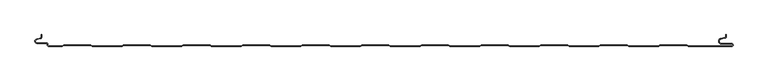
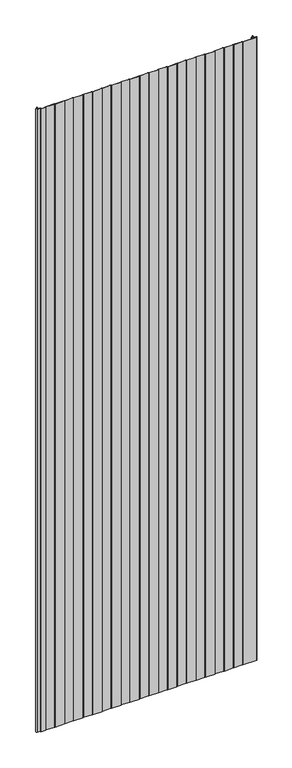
"""IFC4 building model written with IfcOpenShell, lengths in millimetres: plate geometry, Curtain-Panel_Doble-Panel-Acústico_Perfil-estándar-PM1 : ACH_Doble-Panel-Acústico_PM1_100-200-100."""

import ifcopenshell
import ifcopenshell.guid

model = None  # the IFC model being written
_history = None  # IfcOwnerHistory: only IFC2X3 demands one
_inside = {}  # id of a spatial element -> (the spatial element, [elements in it])
_under = {}  # id of a project, library or spatial element -> (it, [spatial elements below it])
_declared = {}  # id of a project -> (the project, [libraries it declares])
_typed = {}  # id of a type object -> (the type object, [elements of that type])
_made_of = {}  # id of a material, layer set ... -> (it, [elements and type objects made of it])


def new_model(schema):
    """Start an empty IFC model of exactly this schema.

    Asked for "IFC4X3", IfcOpenShell would pick the latest addendum, in which some entities
    have other attributes; the version numbers below select the first issue.
    IFC2X3 requires an IfcOwnerHistory on every rooted entity: one is made here for all.
    """
    global model, _history
    if schema == "IFC4X3":
        model = ifcopenshell.file(schema_version=(4, 3, 0, 0))
    else:
        model = ifcopenshell.file(schema=schema)
    _inside.clear()
    _under.clear()
    _declared.clear()
    _typed.clear()
    _made_of.clear()
    _history = None
    if model.schema == "IFC2X3":
        org = make("IfcOrganization", Name="unknown")
        user = make(
            "IfcPersonAndOrganization",
            ThePerson=make("IfcPerson", FamilyName="unknown"),
            TheOrganization=org,
        )
        app = make(
            "IfcApplication",
            ApplicationDeveloper=org,
            Version="unknown",
            ApplicationFullName="unknown",
            ApplicationIdentifier="unknown",
        )
        _history = make(
            "IfcOwnerHistory",
            OwningUser=user,
            OwningApplication=app,
            ChangeAction="ADDED",
            CreationDate=0,
        )
    return model


def make(cls, **values):
    """One entity of the class cls with the attributes given. An attribute that is None is left unset."""
    return model.create_entity(
        cls, **{name: value for name, value in values.items() if value is not None}
    )


def rooted(cls, **values):
    """An entity with a GlobalId (a new one), such as an element, a storey or a relation."""
    return make(cls, GlobalId=ifcopenshell.guid.new(), OwnerHistory=_history, **values)


def si_unit(unit_type, name, prefix=None):
    """IfcSIUnit, for example si_unit("LENGTHUNIT", "METRE", prefix="MILLI")."""
    return make("IfcSIUnit", UnitType=unit_type, Prefix=prefix, Name=name)


def assignment(units):
    """IfcUnitAssignment: the units of a project."""
    return None if units is None else make("IfcUnitAssignment", Units=units)


def point(xyz):
    """IfcCartesianPoint."""
    return None if xyz is None else make("IfcCartesianPoint", Coordinates=xyz)


def direction(xyz):
    """IfcDirection."""
    return None if xyz is None else make("IfcDirection", DirectionRatios=xyz)


def frame(location, z_axis=None, x_axis=None):
    """IfcAxis2Placement3D, a coordinate frame: its origin and axes. An axis left out is left unset."""
    return make(
        "IfcAxis2Placement3D",
        Location=point(location),
        Axis=direction(z_axis),
        RefDirection=direction(x_axis),
    )


def origin():
    """The frame at (0, 0, 0) with its axes left unset."""
    return frame((0.0, 0.0, 0.0))


def place(relative_to, where):
    """IfcLocalPlacement: puts the frame where relative to a parent placement (None: the world)."""
    return make(
        "IfcLocalPlacement", PlacementRelTo=relative_to, RelativePlacement=where
    )


def context(
    kind, dimensions, precision=None, world=None, true_north=None, identifier=None
):
    """IfcGeometricRepresentationContext, for example the 3D "Model" context."""
    return make(
        "IfcGeometricRepresentationContext",
        ContextIdentifier=identifier,
        ContextType=kind,
        CoordinateSpaceDimension=dimensions,
        Precision=precision,
        WorldCoordinateSystem=world,
        TrueNorth=true_north,
    )


def project(units=None, contexts=None):
    """IfcProject with its units and contexts."""
    return rooted(
        "IfcProject",
        Name="project",
        RepresentationContexts=contexts,
        UnitsInContext=assignment(units),
    )


def spatial(cls, under=None, at=None, **own):
    """A site, building, storey or space (cls), placed at a placement, below another one or the project."""
    s = rooted(cls, ObjectPlacement=at, **own)
    if under is not None:
        _under.setdefault(under.id(), (under, []))[1].append(s)
    return s


def polyline(points):
    """IfcPolyline through the points."""
    return make("IfcPolyline", Points=[point(p) for p in points])


def circle_curve(where, radius):
    """IfcCircle in the frame where."""
    return make("IfcCircle", Position=where, Radius=radius)


def shape(context_of_items, identifier, shape_type, items):
    """IfcShapeRepresentation: the items that make up one representation, for example the "Body"."""
    return make(
        "IfcShapeRepresentation",
        ContextOfItems=context_of_items,
        RepresentationIdentifier=identifier,
        RepresentationType=shape_type,
        Items=items,
    )


def source(mapping_origin, context_of_items, identifier, shape_type, items):
    """IfcRepresentationMap: a shape defined once, which mapped items show again and again."""
    return make(
        "IfcRepresentationMap",
        MappingOrigin=mapping_origin,
        MappedRepresentation=shape(context_of_items, identifier, shape_type, items),
    )


def transform(
    local_origin,
    x_axis=None,
    y_axis=None,
    z_axis=None,
    scale=None,
    scale2=None,
    scale3=None,
    uniform=True,
):
    """IfcCartesianTransformationOperator3D, or its non-uniform kind. x_axis, y_axis, z_axis: its Axis1, 2, 3."""
    if uniform:
        return make(
            "IfcCartesianTransformationOperator3D",
            Axis1=direction(x_axis),
            Axis2=direction(y_axis),
            LocalOrigin=point(local_origin),
            Scale=scale,
            Axis3=direction(z_axis),
        )
    return make(
        "IfcCartesianTransformationOperator3DnonUniform",
        Axis1=direction(x_axis),
        Axis2=direction(y_axis),
        LocalOrigin=point(local_origin),
        Scale=scale,
        Axis3=direction(z_axis),
        Scale2=scale2,
        Scale3=scale3,
    )


def mapped(mapping_source, mapping_target):
    """IfcMappedItem: shows the shape of a source again, moved by a transform."""
    return make(
        "IfcMappedItem", MappingSource=mapping_source, MappingTarget=mapping_target
    )


def made_of(thing, what):
    """Note that an element or type object is made of a material, layer set ...; save() writes the relation."""
    if what is not None:
        _made_of.setdefault(what.id(), (what, []))[1].append(thing)
    return thing


def element(
    cls,
    number,
    at=None,
    inside=None,
    cuts=None,
    type_object=None,
    material=None,
    context=None,
    identifier="Body",
    shape_type=None,
    held_by="IfcProductDefinitionShape",
    body=None,
    shapes=None,
    **own,
):
    """One element of the class cls, such as IfcWall. Its Tag is "e" and its number.

    at: its placement. inside: the storey or other place that contains it. cuts: it is an
    opening in that element (IfcRelVoidsElement). A single representation is given by context,
    identifier, shape_type and body (its items); several are given by shapes. held_by: the class
    of the entity that holds the representations. save() writes the other relations.
    """
    e = rooted(cls, Tag="e%d" % number, ObjectPlacement=at, **own)
    if body is not None:
        shapes = [shape(context, identifier, shape_type, body)]
    if shapes is not None:
        e.Representation = make(held_by, Representations=shapes)
    if inside is not None:
        _inside.setdefault(inside.id(), (inside, []))[1].append(e)
    if cuts is not None:
        rooted(
            "IfcRelVoidsElement", RelatingBuildingElement=cuts, RelatedOpeningElement=e
        )
    if type_object is not None:
        _typed.setdefault(type_object.id(), (type_object, []))[1].append(e)
    return made_of(e, material)


def aggregate(whole, parts):
    """IfcRelAggregates: a whole, such as a stair, and the parts it consists of."""
    return rooted("IfcRelAggregates", RelatingObject=whole, RelatedObjects=parts)


def save(model, path):
    """Write the relations noted so far, then the file.

    IfcRelAggregates (storeys below a building ...), IfcRelContainedInSpatialStructure (elements
    in a storey), IfcRelDefinesByType, IfcRelAssociatesMaterial and IfcRelDeclares: one each for
    every whole, place, type object, material and project.
    """
    for whole, parts in _under.values():
        aggregate(whole, parts)
    for where, things in _inside.values():
        rooted(
            "IfcRelContainedInSpatialStructure",
            RelatedElements=things,
            RelatingStructure=where,
        )
    for kind, things in _typed.values():
        rooted("IfcRelDefinesByType", RelatedObjects=things, RelatingType=kind)
    for what, things in _made_of.values():
        rooted("IfcRelAssociatesMaterial", RelatedObjects=things, RelatingMaterial=what)
    for by, libraries in _declared.values():
        rooted("IfcRelDeclares", RelatingContext=by, RelatedDefinitions=libraries)
    model.write(path)


def plane_surface(at):
    """IfcPlane: the flat surface through the origin of the frame at, square to its z axis."""
    return make("IfcPlane", Position=at)


def cylinder_surface(at, radius):
    """IfcCylindricalSurface: all points at the distance radius from the z axis of the frame at."""
    return make("IfcCylindricalSurface", Position=at, Radius=radius)


def revolved_surface(curve, axis_point, axis_direction):
    """IfcSurfaceOfRevolution: the curve turned about the line through axis_point along axis_direction."""
    return make(
        "IfcSurfaceOfRevolution",
        SweptCurve=make("IfcArbitraryOpenProfileDef", ProfileType="CURVE", Curve=curve),
        AxisPosition=make("IfcAxis1Placement", Location=point(axis_point), Axis=direction(axis_direction)),
    )


def advanced_brep(points, edges, surfaces, faces):
    """IfcAdvancedBrep: a solid bounded by faces that lie on surfaces and meet in shared edges.

    An edge is (start, end): straight between two places in points (the first is 0);
    or (start, end, curve); or (start, end, curve, False) where it runs against its curve.
    A face is (place in surfaces, loops), or (place, loops, False) where it looks against
    its surface's normal. A loop lists edges by number (the first is 1), with a minus sign
    where the edge is run from its end to its start. The first loop is the outer one.
    """
    corners = [point(p) for p in points]
    vertices = [make("IfcVertexPoint", VertexGeometry=c) for c in corners]
    made = []
    for start, end, *more in edges:
        made.append(
            make(
                "IfcEdgeCurve",
                EdgeStart=vertices[start],
                EdgeEnd=vertices[end],
                EdgeGeometry=more[0] if more else make("IfcPolyline", Points=[corners[start], corners[end]]),
                SameSense=more[1] if len(more) > 1 else True,
            )
        )
    hull = []
    for where, loops, *sense in faces:
        bounds = []
        for j, loop in enumerate(loops):
            ring = [make("IfcOrientedEdge", EdgeElement=made[abs(k) - 1], Orientation=k > 0) for k in loop]
            bounds.append(
                make(
                    "IfcFaceOuterBound" if j == 0 else "IfcFaceBound",
                    Bound=make("IfcEdgeLoop", EdgeList=ring),
                    Orientation=True,
                )
            )
        hull.append(make("IfcAdvancedFace", Bounds=bounds, FaceSurface=surfaces[where], SameSense=sense[0] if sense else True))
    return make("IfcAdvancedBrep", Outer=make("IfcClosedShell", CfsFaces=hull))


def plate_c86cb39e(model_context):
    return source(origin(), model_context, "Body", "AdvancedBrep", [
        advanced_brep(
        [(-562.4, -400.0, 3500.0), (-539.3999999, -400.0, 3500.0), (-536.8019223, -398.5, 3500.0), (-492.0019247, -398.5, 3500.0), (-489.4038471, -400.0, 3500.0), (-439.3999999, -400.0, 3500.0), (-436.8019223, -398.5, 3500.0), (-392.0019247, -398.5, 3500.0), (-389.4038471, -400.0, 3500.0), (-339.3999999, -400.0, 3500.0), (-336.8019223, -398.5, 3500.0), (-292.0019247, -398.5, 3500.0), (-289.4038471, -400.0, 3500.0), (-239.3999999, -400.0, 3500.0), (-236.8019223, -398.5, 3500.0), (-192.0019247, -398.5, 3500.0), (-189.4038471, -400.0, 3500.0), (-139.3999999, -400.0, 3500.0), (-136.8019223, -398.5, 3500.0), (-92.0019247, -398.5, 3500.0), (-89.4038471, -400.0, 3500.0), (-39.3999999, -400.0, 3500.0), (-36.8019223, -398.5, 3500.0), (7.9980753, -398.5, 3500.0), (10.5961529, -400.0, 3500.0), (60.6000001, -400.0, 3500.0), (63.1980777, -398.5, 3500.0), (107.9980753, -398.5, 3500.0), (110.5961529, -400.0, 3500.0), (160.6000001, -400.0, 3500.0), (163.1980777, -398.5, 3500.0), (207.9980753, -398.5, 3500.0), (210.5961529, -400.0, 3500.0), (260.6000001, -400.0, 3500.0), (263.1980777, -398.5, 3500.0), (307.9980753, -398.5, 3500.0), (310.5961529, -400.0, 3500.0), (360.6000001, -400.0, 3500.0), (363.1980777, -398.5, 3500.0), (407.9980753, -398.5, 3500.0), (410.5961529, -400.0, 3500.0), (460.6000001, -400.0, 3500.0), (463.1980777, -398.5, 3500.0), (507.9980753, -398.5, 3500.0), (510.5961529, -400.0, 3500.0), (583.1, -400.0, 3500.0), (585.6, -397.5, 3500.0), (583.1, -395.0, 3500.0), (566.1, -395.0, 3500.0), (565.4054075, -387.060769, 3500.0), (571.8514851, -385.924152, 3500.0), (574.0, -383.363652, 3500.0), (574.0, -380.0, 3500.0), (573.2, -380.0, 3500.0), (573.2, -383.363652, 3500.0), (571.7125666, -385.136306, 3500.0), (565.266489, -386.2729229, 3500.0), (566.1, -395.8, 3500.0), (583.1, -395.8, 3500.0), (583.1, -399.2, 3500.0), (510.8105122, -399.2, 3500.0), (508.2124346, -397.7, 3500.0), (462.9837184, -397.7, 3500.0), (460.3856408, -399.2, 3500.0), (410.8105122, -399.2, 3500.0), (408.2124346, -397.7, 3500.0), (362.9837184, -397.7, 3500.0), (360.3856408, -399.2, 3500.0), (310.8105122, -399.2, 3500.0), (308.2124346, -397.7, 3500.0), (262.9837184, -397.7, 3500.0), (260.3856408, -399.2, 3500.0), (210.8105122, -399.2, 3500.0), (208.2124346, -397.7, 3500.0), (162.9837184, -397.7, 3500.0), (160.3856408, -399.2, 3500.0), (110.8105122, -399.2, 3500.0), (108.2124346, -397.7, 3500.0), (62.9837184, -397.7, 3500.0), (60.3856408, -399.2, 3500.0), (10.8105122, -399.2, 3500.0), (8.2124346, -397.7, 3500.0), (-37.0162816, -397.7, 3500.0), (-39.6143592, -399.2, 3500.0), (-89.1894878, -399.2, 3500.0), (-91.7875654, -397.7, 3500.0), (-137.0162816, -397.7, 3500.0), (-139.6143592, -399.2, 3500.0), (-189.1894878, -399.2, 3500.0), (-191.7875654, -397.7, 3500.0), (-237.0162816, -397.7, 3500.0), (-239.6143592, -399.2, 3500.0), (-289.1894878, -399.2, 3500.0), (-291.7875654, -397.7, 3500.0), (-337.0162816, -397.7, 3500.0), (-339.6143592, -399.2, 3500.0), (-389.1894878, -399.2, 3500.0), (-391.7875654, -397.7, 3500.0), (-437.0162816, -397.7, 3500.0), (-439.6143592, -399.2, 3500.0), (-489.1894878, -399.2, 3500.0), (-491.7875654, -397.7, 3500.0), (-537.0162816, -397.7, 3500.0), (-539.6143592, -399.2, 3500.0), (-562.4, -399.2, 3500.0), (-563.6, -398.0, 3500.0), (-563.6, -396.6, 3500.0), (-566.4, -393.8, 3500.0), (-581.9, -393.8, 3500.0), (-582.529863, -388.2717638, 3500.0), (-576.370137, -386.849679, 3500.0), (-574.2, -384.121443, 3500.0), (-574.2, -380.0, 3500.0), (-575.0, -380.0, 3500.0), (-575.0, -384.121443, 3500.0), (-576.5500978, -386.0701831, 3500.0), (-582.7098239, -387.492268, 3500.0), (-581.9, -394.6, 3500.0), (-566.4, -394.6, 3500.0), (-564.4, -396.6, 3500.0), (-564.4, -398.0, 3500.0), (-562.4, -400.0, 0.0), (-564.4, -398.0, 0.0), (-564.4, -396.6, 0.0), (-566.4, -394.6, 0.0), (-581.9, -394.6, 0.0), (-582.7098239, -387.4922678, 0.0), (-576.5500979, -386.070183, 0.0), (-575.0, -384.121443, 0.0), (-575.0, -380.0, 0.0), (-574.2, -380.0, 0.0), (-574.2, -384.121443, 0.0), (-576.370137, -386.8496792, 0.0), (-582.529863, -388.271764, 0.0), (-581.9, -393.8, 0.0), (-566.4, -393.8, 0.0), (-563.6, -396.6, 0.0), (-563.6, -398.0, 0.0), (-562.4, -399.2, 0.0), (-539.6143592, -399.2, 0.0), (-537.0162816, -397.7, 0.0), (-491.7875654, -397.7, 0.0), (-489.1894878, -399.2, 0.0), (-439.6143592, -399.2, 0.0), (-437.0162816, -397.7, 0.0), (-391.7875654, -397.7, 0.0), (-389.1894878, -399.2, 0.0), (-339.6143592, -399.2, 0.0), (-337.0162816, -397.7, 0.0), (-291.7875654, -397.7, 0.0), (-289.1894878, -399.2, 0.0), (-239.6143592, -399.2, 0.0), (-237.0162816, -397.7, 0.0), (-191.7875654, -397.7, 0.0), (-189.1894878, -399.2, 0.0), (-139.6143592, -399.2, 0.0), (-137.0162816, -397.7, 0.0), (-91.7875654, -397.7, 0.0), (-89.1894878, -399.2, 0.0), (-39.6143592, -399.2, 0.0), (-37.0162816, -397.7, 0.0), (8.2124346, -397.7, 0.0), (10.8105122, -399.2, 0.0), (60.3856408, -399.2, 0.0), (62.9837184, -397.7, 0.0), (108.2124346, -397.7, 0.0), (110.8105122, -399.2, 0.0), (160.3856408, -399.2, 0.0), (162.9837184, -397.7, 0.0), (208.2124346, -397.7, 0.0), (210.8105122, -399.2, 0.0), (260.3856408, -399.2, 0.0), (262.9837184, -397.7, 0.0), (308.2124346, -397.7, 0.0), (310.8105122, -399.2, 0.0), (360.3856408, -399.2, 0.0), (362.9837184, -397.7, 0.0), (408.2124346, -397.7, 0.0), (410.8105122, -399.2, 0.0), (460.3856408, -399.2, 0.0), (462.9837184, -397.7, 0.0), (508.2124346, -397.7, 0.0), (510.8105122, -399.2, 0.0), (583.1, -399.2, 0.0), (583.1, -395.8, 0.0), (566.1, -395.8, 0.0), (565.266489, -386.2729227, 0.0), (571.7125666, -385.1363058, 0.0), (573.2, -383.363652, 0.0), (573.2, -380.0, 0.0), (574.0, -380.0, 0.0), (574.0, -383.363652, 0.0), (571.8514851, -385.9241522, 0.0), (565.4054075, -387.0607691, 0.0), (566.1, -395.0, 0.0), (583.1, -395.0, 0.0), (585.6, -397.5, 0.0), (583.1, -400.0, 0.0), (510.5961529, -400.0, 0.0), (507.9980753, -398.5, 0.0), (463.1980777, -398.5, 0.0), (460.6000001, -400.0, 0.0), (410.5961529, -400.0, 0.0), (407.9980753, -398.5, 0.0), (363.1980777, -398.5, 0.0), (360.6000001, -400.0, 0.0), (310.5961529, -400.0, 0.0), (307.9980753, -398.5, 0.0), (263.1980777, -398.5, 0.0), (260.6000001, -400.0, 0.0), (210.5961529, -400.0, 0.0), (207.9980753, -398.5, 0.0), (163.1980777, -398.5, 0.0), (160.6000001, -400.0, 0.0), (110.5961529, -400.0, 0.0), (107.9980753, -398.5, 0.0), (63.1980777, -398.5, 0.0), (60.6000001, -400.0, 0.0), (10.5961529, -400.0, 0.0), (7.9980753, -398.5, 0.0), (-36.8019223, -398.5, 0.0), (-39.3999999, -400.0, 0.0), (-89.4038471, -400.0, 0.0), (-92.0019247, -398.5, 0.0), (-136.8019223, -398.5, 0.0), (-139.3999999, -400.0, 0.0), (-189.4038471, -400.0, 0.0), (-192.0019247, -398.5, 0.0), (-236.8019223, -398.5, 0.0), (-239.3999999, -400.0, 0.0), (-289.4038471, -400.0, 0.0), (-292.0019247, -398.5, 0.0), (-336.8019223, -398.5, 0.0), (-339.3999999, -400.0, 0.0), (-389.4038471, -400.0, 0.0), (-392.0019247, -398.5, 0.0), (-436.8019223, -398.5, 0.0), (-439.3999999, -400.0, 0.0), (-489.4038471, -400.0, 0.0), (-492.0019247, -398.5, 0.0), (-536.8019223, -398.5, 0.0), (-539.3999999, -400.0, 0.0)],
        [
            (0, 1),
            (1, 2),
            (2, 3),
            (3, 4),
            (4, 5),
            (5, 6),
            (6, 7),
            (7, 8),
            (8, 9),
            (9, 10),
            (10, 11),
            (11, 12),
            (12, 13),
            (13, 14),
            (14, 15),
            (15, 16),
            (16, 17),
            (17, 18),
            (18, 19),
            (19, 20),
            (20, 21),
            (21, 22),
            (22, 23),
            (23, 24),
            (24, 25),
            (25, 26),
            (26, 27),
            (27, 28),
            (28, 29),
            (29, 30),
            (30, 31),
            (31, 32),
            (32, 33),
            (33, 34),
            (34, 35),
            (35, 36),
            (36, 37),
            (37, 38),
            (38, 39),
            (39, 40),
            (40, 41),
            (41, 42),
            (42, 43),
            (43, 44),
            (44, 45),
            (45, 46, circle_curve(frame((583.1, -397.5, 3500.0), z_axis=(0.0, 0.0, 1.0), x_axis=(1.0, 0.0, 0.0)), 2.5)),
            (46, 47, circle_curve(frame((583.1, -397.5, 3500.0), z_axis=(0.0, 0.0, 1.0), x_axis=(1.0, 0.0, 0.0)), 2.5)),
            (47, 48),
            (48, 49, circle_curve(frame((566.1, -391.0, 3500.0), z_axis=(0.0, 0.0, -1.0), x_axis=(1.0, 0.0, 0.0)), 4.0)),
            (49, 50),
            (50, 51, circle_curve(frame((571.4, -383.363652, 3500.0), z_axis=(0.0, 0.0, 1.0), x_axis=(1.0, 0.0, 0.0)), 2.6)),
            (51, 52),
            (52, 53),
            (53, 54),
            (54, 55, circle_curve(frame((571.4, -383.363652, 3500.0), z_axis=(0.0, 0.0, -1.0), x_axis=(1.0, 0.0, 0.0)), 1.8)),
            (55, 56),
            (56, 57, circle_curve(frame((566.1, -391.0, 3500.0), z_axis=(0.0, 0.0, 1.0), x_axis=(1.0, 0.0, 0.0)), 4.8)),
            (57, 58),
            (58, 59, circle_curve(frame((583.1, -397.5, 3500.0), z_axis=(0.0, 0.0, -1.0), x_axis=(1.0, 0.0, 0.0)), 1.7)),
            (59, 60),
            (60, 61),
            (61, 62),
            (62, 63),
            (63, 64),
            (64, 65),
            (65, 66),
            (66, 67),
            (67, 68),
            (68, 69),
            (69, 70),
            (70, 71),
            (71, 72),
            (72, 73),
            (73, 74),
            (74, 75),
            (75, 76),
            (76, 77),
            (77, 78),
            (78, 79),
            (79, 80),
            (80, 81),
            (81, 82),
            (82, 83),
            (83, 84),
            (84, 85),
            (85, 86),
            (86, 87),
            (87, 88),
            (88, 89),
            (89, 90),
            (90, 91),
            (91, 92),
            (92, 93),
            (93, 94),
            (94, 95),
            (95, 96),
            (96, 97),
            (97, 98),
            (98, 99),
            (99, 100),
            (100, 101),
            (101, 102),
            (102, 103),
            (103, 104),
            (104, 105, circle_curve(frame((-562.4, -398.0, 3500.0), z_axis=(0.0, 0.0, -1.0), x_axis=(1.0, 0.0, 0.0)), 1.2)),
            (105, 106),
            (106, 107, circle_curve(frame((-566.4, -396.6, 3500.0), z_axis=(0.0, 0.0, 1.0), x_axis=(1.0, 0.0, 0.0)), 2.8)),
            (107, 108),
            (108, 109, circle_curve(frame((-581.9, -391.0, 3500.0), z_axis=(0.0, 0.0, -1.0), x_axis=(1.0, 0.0, 0.0)), 2.8)),
            (109, 110),
            (110, 111, circle_curve(frame((-577.0, -384.121443, 3500.0), z_axis=(0.0, 0.0, 1.0), x_axis=(1.0, 0.0, 0.0)), 2.8)),
            (111, 112),
            (112, 113),
            (113, 114),
            (114, 115, circle_curve(frame((-577.0, -384.121443, 3500.0), z_axis=(0.0, 0.0, -1.0), x_axis=(1.0, 0.0, 0.0)), 2.0)),
            (115, 116),
            (116, 117, circle_curve(frame((-581.9, -391.0, 3500.0), z_axis=(0.0, 0.0, 1.0), x_axis=(1.0, 0.0, 0.0)), 3.6)),
            (117, 118),
            (118, 119, circle_curve(frame((-566.4, -396.6, 3500.0), z_axis=(0.0, 0.0, -1.0), x_axis=(1.0, 0.0, 0.0)), 2.0)),
            (119, 120),
            (120, 0, circle_curve(frame((-562.4, -398.0, 3500.0), z_axis=(0.0, 0.0, 1.0), x_axis=(1.0, 0.0, 0.0)), 2.0)),
            (121, 122, circle_curve(frame((-562.4, -398.0, 0.0), z_axis=(0.0, 0.0, -1.0), x_axis=(1.0, 0.0, 0.0)), 2.0)),
            (122, 123),
            (123, 124, circle_curve(frame((-566.4, -396.6, 0.0), z_axis=(0.0, 0.0, 1.0), x_axis=(1.0, 0.0, 0.0)), 2.0)),
            (124, 125),
            (125, 126, circle_curve(frame((-581.9, -391.0, 0.0), z_axis=(0.0, 0.0, -1.0), x_axis=(1.0, 0.0, 0.0)), 3.6)),
            (126, 127),
            (127, 128, circle_curve(frame((-577.0, -384.121443, 0.0), z_axis=(0.0, 0.0, 1.0), x_axis=(1.0, 0.0, 0.0)), 2.0)),
            (128, 129),
            (129, 130),
            (130, 131),
            (131, 132, circle_curve(frame((-577.0, -384.121443, 0.0), z_axis=(0.0, 0.0, -1.0), x_axis=(1.0, 0.0, 0.0)), 2.8)),
            (132, 133),
            (133, 134, circle_curve(frame((-581.9, -391.0, 0.0), z_axis=(0.0, 0.0, 1.0), x_axis=(1.0, 0.0, 0.0)), 2.8)),
            (134, 135),
            (135, 136, circle_curve(frame((-566.4, -396.6, 0.0), z_axis=(0.0, 0.0, -1.0), x_axis=(1.0, 0.0, 0.0)), 2.8)),
            (136, 137),
            (137, 138, circle_curve(frame((-562.4, -398.0, 0.0), z_axis=(0.0, 0.0, 1.0), x_axis=(1.0, 0.0, 0.0)), 1.2)),
            (138, 139),
            (139, 140),
            (140, 141),
            (141, 142),
            (142, 143),
            (143, 144),
            (144, 145),
            (145, 146),
            (146, 147),
            (147, 148),
            (148, 149),
            (149, 150),
            (150, 151),
            (151, 152),
            (152, 153),
            (153, 154),
            (154, 155),
            (155, 156),
            (156, 157),
            (157, 158),
            (158, 159),
            (159, 160),
            (160, 161),
            (161, 162),
            (162, 163),
            (163, 164),
            (164, 165),
            (165, 166),
            (166, 167),
            (167, 168),
            (168, 169),
            (169, 170),
            (170, 171),
            (171, 172),
            (172, 173),
            (173, 174),
            (174, 175),
            (175, 176),
            (176, 177),
            (177, 178),
            (178, 179),
            (179, 180),
            (180, 181),
            (181, 182),
            (182, 183),
            (183, 184, circle_curve(frame((583.1, -397.5, 0.0), z_axis=(0.0, 0.0, 1.0), x_axis=(1.0, 0.0, 0.0)), 1.7)),
            (184, 185),
            (185, 186, circle_curve(frame((566.1, -391.0, 0.0), z_axis=(0.0, 0.0, -1.0), x_axis=(1.0, 0.0, 0.0)), 4.8)),
            (186, 187),
            (187, 188, circle_curve(frame((571.4, -383.363652, 0.0), z_axis=(0.0, 0.0, 1.0), x_axis=(1.0, 0.0, 0.0)), 1.8)),
            (188, 189),
            (189, 190),
            (190, 191),
            (191, 192, circle_curve(frame((571.4, -383.363652, 0.0), z_axis=(0.0, 0.0, -1.0), x_axis=(1.0, 0.0, 0.0)), 2.6)),
            (192, 193),
            (193, 194, circle_curve(frame((566.1, -391.0, 0.0), z_axis=(0.0, 0.0, 1.0), x_axis=(1.0, 0.0, 0.0)), 4.0)),
            (194, 195),
            (195, 196, circle_curve(frame((583.1, -397.5, 0.0), z_axis=(0.0, 0.0, -1.0), x_axis=(1.0, 0.0, 0.0)), 2.5)),
            (196, 197, circle_curve(frame((583.1, -397.5, 0.0), z_axis=(0.0, 0.0, -1.0), x_axis=(1.0, 0.0, 0.0)), 2.5)),
            (197, 198),
            (198, 199),
            (199, 200),
            (200, 201),
            (201, 202),
            (202, 203),
            (203, 204),
            (204, 205),
            (205, 206),
            (206, 207),
            (207, 208),
            (208, 209),
            (209, 210),
            (210, 211),
            (211, 212),
            (212, 213),
            (213, 214),
            (214, 215),
            (215, 216),
            (216, 217),
            (217, 218),
            (218, 219),
            (219, 220),
            (220, 221),
            (221, 222),
            (222, 223),
            (223, 224),
            (224, 225),
            (225, 226),
            (226, 227),
            (227, 228),
            (228, 229),
            (229, 230),
            (230, 231),
            (231, 232),
            (232, 233),
            (233, 234),
            (234, 235),
            (235, 236),
            (236, 237),
            (237, 238),
            (238, 239),
            (239, 240),
            (240, 241),
            (241, 121),
            (0, 121),
            (241, 1),
            (240, 2),
            (239, 3),
            (238, 4),
            (237, 5),
            (236, 6),
            (235, 7),
            (234, 8),
            (233, 9),
            (232, 10),
            (231, 11),
            (230, 12),
            (229, 13),
            (228, 14),
            (227, 15),
            (226, 16),
            (225, 17),
            (224, 18),
            (223, 19),
            (222, 20),
            (221, 21),
            (220, 22),
            (219, 23),
            (218, 24),
            (217, 25),
            (216, 26),
            (215, 27),
            (214, 28),
            (213, 29),
            (212, 30),
            (211, 31),
            (210, 32),
            (209, 33),
            (208, 34),
            (207, 35),
            (206, 36),
            (205, 37),
            (204, 38),
            (203, 39),
            (202, 40),
            (201, 41),
            (200, 42),
            (199, 43),
            (198, 44),
            (197, 45),
            (195, 47),
            (194, 48),
            (193, 49),
            (192, 50),
            (191, 51),
            (190, 52),
            (189, 53),
            (188, 54),
            (187, 55),
            (186, 56),
            (185, 57),
            (184, 58),
            (183, 59),
            (182, 60),
            (181, 61),
            (180, 62),
            (179, 63),
            (178, 64),
            (177, 65),
            (176, 66),
            (175, 67),
            (174, 68),
            (173, 69),
            (172, 70),
            (171, 71),
            (170, 72),
            (169, 73),
            (168, 74),
            (167, 75),
            (166, 76),
            (165, 77),
            (164, 78),
            (163, 79),
            (162, 80),
            (161, 81),
            (160, 82),
            (159, 83),
            (158, 84),
            (157, 85),
            (156, 86),
            (155, 87),
            (154, 88),
            (153, 89),
            (152, 90),
            (151, 91),
            (150, 92),
            (149, 93),
            (148, 94),
            (147, 95),
            (146, 96),
            (145, 97),
            (144, 98),
            (143, 99),
            (142, 100),
            (141, 101),
            (140, 102),
            (139, 103),
            (138, 104),
            (137, 105),
            (136, 106),
            (135, 107),
            (134, 108),
            (133, 109),
            (132, 110),
            (131, 111),
            (130, 112),
            (129, 113),
            (128, 114),
            (127, 115),
            (126, 116),
            (125, 117),
            (124, 118),
            (123, 119),
            (122, 120),
        ],
        [
            plane_surface(frame((-575.0, -400.0, 3500.0), z_axis=(0.0, 0.0, 1.0), x_axis=(0.0, 1.0, 0.0))),
            plane_surface(frame((-575.0, -400.0, 0.0), z_axis=(0.0, 0.0, -1.0), x_axis=(0.0, 1.0, 0.0))),
            plane_surface(frame((-562.4, -400.0, 3500.0), z_axis=(0.0, -1.0, 0.0), x_axis=(0.0, 0.0, -1.0))),
            plane_surface(frame((-539.3999999, -400.0, 3500.0), z_axis=(0.49999979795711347, -0.8660255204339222, 0.0), x_axis=(0.0, 0.0, -1.0))),
            plane_surface(frame((-536.8019223, -398.5, 3500.0), z_axis=(0.0, -1.0, 0.0), x_axis=(0.0, 0.0, -1.0))),
            plane_surface(frame((-492.0019247, -398.5, 3500.0), z_axis=(-0.49999979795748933, -0.8660255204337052, 0.0), x_axis=(0.0, 0.0, -1.0))),
            plane_surface(frame((-489.4038471, -400.0, 3500.0), z_axis=(0.0, -1.0, 0.0), x_axis=(0.0, 0.0, -1.0))),
            plane_surface(frame((-439.3999999, -400.0, 3500.0), z_axis=(0.49999979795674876, -0.8660255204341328, 0.0), x_axis=(0.0, 0.0, -1.0))),
            plane_surface(frame((-436.8019223, -398.5, 3500.0), z_axis=(0.0, -1.0, 0.0), x_axis=(0.0, 0.0, -1.0))),
            plane_surface(frame((-392.0019247, -398.5, 3500.0), z_axis=(-0.4999997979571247, -0.8660255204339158, 0.0), x_axis=(0.0, 0.0, -1.0))),
            plane_surface(frame((-389.4038471, -400.0, 3500.0), z_axis=(0.0, -1.0, 0.0), x_axis=(0.0, 0.0, -1.0))),
            plane_surface(frame((-339.3999999, -400.0, 3500.0), z_axis=(0.49999979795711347, -0.8660255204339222, 0.0), x_axis=(0.0, 0.0, -1.0))),
            plane_surface(frame((-336.8019223, -398.5, 3500.0), z_axis=(0.0, -1.0, 0.0), x_axis=(0.0, 0.0, -1.0))),
            plane_surface(frame((-292.0019247, -398.5, 3500.0), z_axis=(-0.4999997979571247, -0.8660255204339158, 0.0), x_axis=(0.0, 0.0, -1.0))),
            plane_surface(frame((-289.4038471, -400.0, 3500.0), z_axis=(0.0, -1.0, 0.0), x_axis=(0.0, 0.0, -1.0))),
            plane_surface(frame((-239.3999999, -400.0, 3500.0), z_axis=(0.49999979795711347, -0.8660255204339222, 0.0), x_axis=(0.0, 0.0, -1.0))),
            plane_surface(frame((-236.8019223, -398.5, 3500.0), z_axis=(0.0, -1.0, 0.0), x_axis=(0.0, 0.0, -1.0))),
            plane_surface(frame((-192.0019247, -398.5, 3500.0), z_axis=(-0.49999979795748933, -0.8660255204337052, 0.0), x_axis=(0.0, 0.0, -1.0))),
            plane_surface(frame((-189.4038471, -400.0, 3500.0), z_axis=(0.0, -1.0, 0.0), x_axis=(0.0, 0.0, -1.0))),
            plane_surface(frame((-139.3999999, -400.0, 3500.0), z_axis=(0.49999979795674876, -0.8660255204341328, 0.0), x_axis=(0.0, 0.0, -1.0))),
            plane_surface(frame((-136.8019223, -398.5, 3500.0), z_axis=(0.0, -1.0, 0.0), x_axis=(0.0, 0.0, -1.0))),
            plane_surface(frame((-92.0019247, -398.5, 3500.0), z_axis=(-0.4999997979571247, -0.8660255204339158, 0.0), x_axis=(0.0, 0.0, -1.0))),
            plane_surface(frame((-89.4038471, -400.0, 3500.0), z_axis=(0.0, -1.0, 0.0), x_axis=(0.0, 0.0, -1.0))),
            plane_surface(frame((-39.3999999, -400.0, 3500.0), z_axis=(0.49999979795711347, -0.8660255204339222, 0.0), x_axis=(0.0, 0.0, -1.0))),
            plane_surface(frame((-36.8019223, -398.5, 3500.0), z_axis=(0.0, -1.0, 0.0), x_axis=(0.0, 0.0, -1.0))),
            plane_surface(frame((7.9980753, -398.5, 3500.0), z_axis=(-0.4999997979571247, -0.8660255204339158, 0.0), x_axis=(0.0, 0.0, -1.0))),
            plane_surface(frame((10.5961529, -400.0, 3500.0), z_axis=(0.0, -1.0, 0.0), x_axis=(0.0, 0.0, -1.0))),
            plane_surface(frame((60.6000001, -400.0, 3500.0), z_axis=(0.49999979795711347, -0.8660255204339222, 0.0), x_axis=(0.0, 0.0, -1.0))),
            plane_surface(frame((63.1980777, -398.5, 3500.0), z_axis=(0.0, -1.0, 0.0), x_axis=(0.0, 0.0, -1.0))),
            plane_surface(frame((107.9980753, -398.5, 3500.0), z_axis=(-0.49999979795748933, -0.8660255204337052, 0.0), x_axis=(0.0, 0.0, -1.0))),
            plane_surface(frame((110.5961529, -400.0, 3500.0), z_axis=(0.0, -1.0, 0.0), x_axis=(0.0, 0.0, -1.0))),
            plane_surface(frame((160.6000001, -400.0, 3500.0), z_axis=(0.49999979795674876, -0.8660255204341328, 0.0), x_axis=(0.0, 0.0, -1.0))),
            plane_surface(frame((163.1980777, -398.5, 3500.0), z_axis=(0.0, -1.0, 0.0), x_axis=(0.0, 0.0, -1.0))),
            plane_surface(frame((207.9980753, -398.5, 3500.0), z_axis=(-0.4999997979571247, -0.8660255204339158, 0.0), x_axis=(0.0, 0.0, -1.0))),
            plane_surface(frame((210.5961529, -400.0, 3500.0), z_axis=(0.0, -1.0, 0.0), x_axis=(0.0, 0.0, -1.0))),
            plane_surface(frame((260.6000001, -400.0, 3500.0), z_axis=(0.49999979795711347, -0.8660255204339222, 0.0), x_axis=(0.0, 0.0, -1.0))),
            plane_surface(frame((263.1980777, -398.5, 3500.0), z_axis=(0.0, -1.0, 0.0), x_axis=(0.0, 0.0, -1.0))),
            plane_surface(frame((307.9980753, -398.5, 3500.0), z_axis=(-0.4999997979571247, -0.8660255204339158, 0.0), x_axis=(0.0, 0.0, -1.0))),
            plane_surface(frame((310.5961529, -400.0, 3500.0), z_axis=(0.0, -1.0, 0.0), x_axis=(0.0, 0.0, -1.0))),
            plane_surface(frame((360.6000001, -400.0, 3500.0), z_axis=(0.49999979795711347, -0.8660255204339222, 0.0), x_axis=(0.0, 0.0, -1.0))),
            plane_surface(frame((363.1980777, -398.5, 3500.0), z_axis=(0.0, -1.0, 0.0), x_axis=(0.0, 0.0, -1.0))),
            plane_surface(frame((407.9980753, -398.5, 3500.0), z_axis=(-0.49999979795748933, -0.8660255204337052, 0.0), x_axis=(0.0, 0.0, -1.0))),
            plane_surface(frame((410.5961529, -400.0, 3500.0), z_axis=(0.0, -1.0, 0.0), x_axis=(0.0, 0.0, -1.0))),
            plane_surface(frame((460.6000001, -400.0, 3500.0), z_axis=(0.49999979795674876, -0.8660255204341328, 0.0), x_axis=(0.0, 0.0, -1.0))),
            plane_surface(frame((463.1980777, -398.5, 3500.0), z_axis=(0.0, -1.0, 0.0), x_axis=(0.0, 0.0, -1.0))),
            plane_surface(frame((507.9980753, -398.5, 3500.0), z_axis=(-0.4999997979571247, -0.8660255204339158, 0.0), x_axis=(0.0, 0.0, -1.0))),
            plane_surface(frame((560.890897, -400.0, 3500.0), z_axis=(0.0, -1.0, 0.0), x_axis=(0.0, 0.0, -1.0))),
            cylinder_surface(frame((583.1, -397.5, 3500.0), z_axis=(0.0, 0.0, 1.0), x_axis=(1.0, 0.0, 0.0)), 2.5),
            plane_surface(frame((583.1, -395.0, 3500.0), z_axis=(0.0, 1.0, 0.0), x_axis=(0.0, 0.0, -1.0))),
            revolved_surface(polyline([(570.1, -391.0, 0.0), (570.1, -391.0, 3500.0)]), (566.1, -391.0, 3500.0), (0.0, 0.0, -1.0)),
            plane_surface(frame((565.4054075, -387.0607691, 3500.0), z_axis=(0.17364813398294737, -0.9848077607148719, 0.0), x_axis=(0.0, 0.0, -1.0))),
            cylinder_surface(frame((571.4, -383.363652, 3500.0), z_axis=(0.0, 0.0, 1.0), x_axis=(1.0, 0.0, 0.0)), 2.6),
            plane_surface(frame((574.0, -383.363652, 3500.0), z_axis=(1.0, 0.0, 0.0), x_axis=(0.0, 0.0, -1.0))),
            plane_surface(frame((574.0, -380.0, 3500.0), z_axis=(0.0, 1.0, 0.0), x_axis=(0.0, 0.0, -1.0))),
            plane_surface(frame((573.2, -380.0, 3500.0), z_axis=(-1.0, 0.0, 0.0), x_axis=(0.0, 0.0, -1.0))),
            revolved_surface(polyline([(573.1999999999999, -383.363652, 0.0), (573.1999999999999, -383.363652, 3500.0)]), (571.4, -383.363652, 3500.0), (0.0, 0.0, -1.0)),
            plane_surface(frame((571.7125666, -385.1363058, 3500.0), z_axis=(-0.17364813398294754, 0.9848077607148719, 0.0), x_axis=(0.0, 0.0, -1.0))),
            cylinder_surface(frame((566.1, -391.0, 3500.0), z_axis=(0.0, 0.0, 1.0), x_axis=(1.0, 0.0, 0.0)), 4.8),
            plane_surface(frame((566.1, -395.8, 3500.0), z_axis=(0.0, -1.0, 0.0), x_axis=(0.0, 0.0, -1.0))),
            revolved_surface(polyline([(584.8000000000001, -397.5, 0.0), (584.8000000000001, -397.5, 3500.0)]), (583.1, -397.5, 3500.0), (0.0, 0.0, -1.0)),
            plane_surface(frame((560.890897, -399.2, 3500.0), z_axis=(0.0, 1.0, 0.0), x_axis=(0.0, 0.0, -1.0))),
            plane_surface(frame((510.8105122, -399.2, 3500.0), z_axis=(0.49999979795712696, 0.8660255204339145, 0.0), x_axis=(0.0, 0.0, -1.0))),
            plane_surface(frame((508.2124346, -397.7, 3500.0), z_axis=(0.0, 1.0, 0.0), x_axis=(0.0, 0.0, -1.0))),
            plane_surface(frame((462.9837184, -397.7, 3500.0), z_axis=(-0.4999997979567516, 0.8660255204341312, 0.0), x_axis=(0.0, 0.0, -1.0))),
            plane_surface(frame((460.3856408, -399.2, 3500.0), z_axis=(0.0, 1.0, 0.0), x_axis=(0.0, 0.0, -1.0))),
            plane_surface(frame((410.8105122, -399.2, 3500.0), z_axis=(0.4999997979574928, 0.8660255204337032, 0.0), x_axis=(0.0, 0.0, -1.0))),
            plane_surface(frame((408.2124346, -397.7, 3500.0), z_axis=(0.0, 1.0, 0.0), x_axis=(0.0, 0.0, -1.0))),
            plane_surface(frame((362.9837184, -397.7, 3500.0), z_axis=(-0.49999979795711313, 0.8660255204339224, 0.0), x_axis=(0.0, 0.0, -1.0))),
            plane_surface(frame((360.3856408, -399.2, 3500.0), z_axis=(0.0, 1.0, 0.0), x_axis=(0.0, 0.0, -1.0))),
            plane_surface(frame((310.8105122, -399.2, 3500.0), z_axis=(0.4999997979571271, 0.8660255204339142, 0.0), x_axis=(0.0, 0.0, -1.0))),
            plane_surface(frame((308.2124346, -397.7, 3500.0), z_axis=(0.0, 1.0, 0.0), x_axis=(0.0, 0.0, -1.0))),
            plane_surface(frame((262.9837184, -397.7, 3500.0), z_axis=(-0.49999979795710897, 0.8660255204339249, 0.0), x_axis=(0.0, 0.0, -1.0))),
            plane_surface(frame((260.3856408, -399.2, 3500.0), z_axis=(0.0, 1.0, 0.0), x_axis=(0.0, 0.0, -1.0))),
            plane_surface(frame((210.8105122, -399.2, 3500.0), z_axis=(0.4999997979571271, 0.8660255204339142, 0.0), x_axis=(0.0, 0.0, -1.0))),
            plane_surface(frame((208.2124346, -397.7, 3500.0), z_axis=(0.0, 1.0, 0.0), x_axis=(0.0, 0.0, -1.0))),
            plane_surface(frame((162.9837184, -397.7, 3500.0), z_axis=(-0.4999997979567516, 0.8660255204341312, 0.0), x_axis=(0.0, 0.0, -1.0))),
            plane_surface(frame((160.3856408, -399.2, 3500.0), z_axis=(0.0, 1.0, 0.0), x_axis=(0.0, 0.0, -1.0))),
            plane_surface(frame((110.8105122, -399.2, 3500.0), z_axis=(0.49999979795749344, 0.8660255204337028, 0.0), x_axis=(0.0, 0.0, -1.0))),
            plane_surface(frame((108.2124346, -397.7, 3500.0), z_axis=(0.0, 1.0, 0.0), x_axis=(0.0, 0.0, -1.0))),
            plane_surface(frame((62.9837184, -397.7, 3500.0), z_axis=(-0.49999979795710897, 0.8660255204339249, 0.0), x_axis=(0.0, 0.0, -1.0))),
            plane_surface(frame((60.3856408, -399.2, 3500.0), z_axis=(0.0, 1.0, 0.0), x_axis=(0.0, 0.0, -1.0))),
            plane_surface(frame((10.8105122, -399.2, 3500.0), z_axis=(0.4999997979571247, 0.8660255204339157, 0.0), x_axis=(0.0, 0.0, -1.0))),
            plane_surface(frame((8.2124346, -397.7, 3500.0), z_axis=(0.0, 1.0, 0.0), x_axis=(0.0, 0.0, -1.0))),
            plane_surface(frame((-37.0162816, -397.7, 3500.0), z_axis=(-0.49999979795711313, 0.8660255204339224, 0.0), x_axis=(0.0, 0.0, -1.0))),
            plane_surface(frame((-39.6143592, -399.2, 3500.0), z_axis=(0.0, 1.0, 0.0), x_axis=(0.0, 0.0, -1.0))),
            plane_surface(frame((-89.1894878, -399.2, 3500.0), z_axis=(0.4999997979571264, 0.8660255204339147, 0.0), x_axis=(0.0, 0.0, -1.0))),
            plane_surface(frame((-91.7875654, -397.7, 3500.0), z_axis=(0.0, 1.0, 0.0), x_axis=(0.0, 0.0, -1.0))),
            plane_surface(frame((-137.0162816, -397.7, 3500.0), z_axis=(-0.49999979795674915, 0.8660255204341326, 0.0), x_axis=(0.0, 0.0, -1.0))),
            plane_surface(frame((-139.6143592, -399.2, 3500.0), z_axis=(0.0, 1.0, 0.0), x_axis=(0.0, 0.0, -1.0))),
            plane_surface(frame((-189.1894878, -399.2, 3500.0), z_axis=(0.49999979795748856, 0.8660255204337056, 0.0), x_axis=(0.0, 0.0, -1.0))),
            plane_surface(frame((-191.7875654, -397.7, 3500.0), z_axis=(0.0, 1.0, 0.0), x_axis=(0.0, 0.0, -1.0))),
            plane_surface(frame((-237.0162816, -397.7, 3500.0), z_axis=(-0.4999997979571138, 0.866025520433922, 0.0), x_axis=(0.0, 0.0, -1.0))),
            plane_surface(frame((-239.6143592, -399.2, 3500.0), z_axis=(0.0, 1.0, 0.0), x_axis=(0.0, 0.0, -1.0))),
            plane_surface(frame((-289.1894878, -399.2, 3500.0), z_axis=(0.49999979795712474, 0.8660255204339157, 0.0), x_axis=(0.0, 0.0, -1.0))),
            plane_surface(frame((-291.7875654, -397.7, 3500.0), z_axis=(0.0, 1.0, 0.0), x_axis=(0.0, 0.0, -1.0))),
            plane_surface(frame((-337.0162816, -397.7, 3500.0), z_axis=(-0.49999979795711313, 0.8660255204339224, 0.0), x_axis=(0.0, 0.0, -1.0))),
            plane_surface(frame((-339.6143592, -399.2, 3500.0), z_axis=(0.0, 1.0, 0.0), x_axis=(0.0, 0.0, -1.0))),
            plane_surface(frame((-389.1894878, -399.2, 3500.0), z_axis=(0.49999979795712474, 0.8660255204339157, 0.0), x_axis=(0.0, 0.0, -1.0))),
            plane_surface(frame((-391.7875654, -397.7, 3500.0), z_axis=(0.0, 1.0, 0.0), x_axis=(0.0, 0.0, -1.0))),
            plane_surface(frame((-437.0162816, -397.7, 3500.0), z_axis=(-0.49999979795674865, 0.8660255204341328, 0.0), x_axis=(0.0, 0.0, -1.0))),
            plane_surface(frame((-439.6143592, -399.2, 3500.0), z_axis=(0.0, 1.0, 0.0), x_axis=(0.0, 0.0, -1.0))),
            plane_surface(frame((-489.1894878, -399.2, 3500.0), z_axis=(0.49999979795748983, 0.866025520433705, 0.0), x_axis=(0.0, 0.0, -1.0))),
            plane_surface(frame((-491.7875654, -397.7, 3500.0), z_axis=(0.0, 1.0, 0.0), x_axis=(0.0, 0.0, -1.0))),
            plane_surface(frame((-537.0162816, -397.7, 3500.0), z_axis=(-0.49999979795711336, 0.8660255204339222, 0.0), x_axis=(0.0, 0.0, -1.0))),
            plane_surface(frame((-539.6143592, -399.2, 3500.0), z_axis=(0.0, 1.0, 0.0), x_axis=(0.0, 0.0, -1.0))),
            revolved_surface(polyline([(-561.1999999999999, -398.0, 0.0), (-561.1999999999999, -398.0, 3500.0)]), (-562.4, -398.0, 3500.0), (0.0, 0.0, -1.0)),
            plane_surface(frame((-563.6, -398.0, 3500.0), z_axis=(1.0, 0.0, 0.0), x_axis=(0.0, 0.0, -1.0))),
            cylinder_surface(frame((-566.4, -396.6, 3500.0), z_axis=(0.0, 0.0, 1.0), x_axis=(1.0, 0.0, 0.0)), 2.8),
            plane_surface(frame((-566.4, -393.8, 3500.0), z_axis=(0.0, 1.0, 0.0), x_axis=(0.0, 0.0, -1.0))),
            revolved_surface(polyline([(-579.1, -391.0, 0.0), (-579.1, -391.0, 3500.0)]), (-581.9, -391.0, 3500.0), (0.0, 0.0, -1.0)),
            plane_surface(frame((-582.529863, -388.271764, 3500.0), z_axis=(0.2249510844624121, -0.9743700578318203, 0.0), x_axis=(0.0, 0.0, -1.0))),
            cylinder_surface(frame((-577.0, -384.121443, 3500.0), z_axis=(0.0, 0.0, 1.0), x_axis=(1.0, 0.0, 0.0)), 2.8),
            plane_surface(frame((-574.2, -384.121443, 3500.0), z_axis=(1.0, 0.0, 0.0), x_axis=(0.0, 0.0, -1.0))),
            plane_surface(frame((-574.2, -380.0, 3500.0), z_axis=(0.0, 1.0, 0.0), x_axis=(0.0, 0.0, -1.0))),
            plane_surface(frame((-575.0, -380.0, 3500.0), z_axis=(-1.0, 0.0, 0.0), x_axis=(0.0, 0.0, -1.0))),
            revolved_surface(polyline([(-575.0, -384.121443, 0.0), (-575.0, -384.121443, 3500.0)]), (-577.0, -384.121443, 3500.0), (0.0, 0.0, -1.0)),
            plane_surface(frame((-576.5500979, -386.070183, 3500.0), z_axis=(-0.22495108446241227, 0.9743700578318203, 0.0), x_axis=(0.0, 0.0, -1.0))),
            cylinder_surface(frame((-581.9, -391.0, 3500.0), z_axis=(0.0, 0.0, 1.0), x_axis=(1.0, 0.0, 0.0)), 3.6),
            plane_surface(frame((-581.9, -394.6, 3500.0), z_axis=(0.0, -1.0, 0.0), x_axis=(0.0, 0.0, -1.0))),
            revolved_surface(polyline([(-564.4, -396.6, 0.0), (-564.4, -396.6, 3500.0)]), (-566.4, -396.6, 3500.0), (0.0, 0.0, -1.0)),
            plane_surface(frame((-564.4, -396.6, 3500.0), z_axis=(-1.0, 0.0, 0.0), x_axis=(0.0, 0.0, -1.0))),
            cylinder_surface(frame((-562.4, -398.0, 3500.0), z_axis=(0.0, 0.0, 1.0), x_axis=(1.0, 0.0, 0.0)), 2.0),
        ],
        [
            (0, [[1, 2, 3, 4, 5, 6, 7, 8, 9, 10, 11, 12, 13, 14, 15, 16, 17, 18, 19, 20, 21, 22, 23, 24, 25, 26, 27, 28, 29, 30, 31, 32, 33, 34, 35, 36, 37, 38, 39, 40, 41, 42, 43, 44, 45, 46, 47, 48, 49, 50, 51, 52, 53, 54, 55, 56, 57, 58, 59, 60, 61, 62, 63, 64, 65, 66, 67, 68, 69, 70, 71, 72, 73, 74, 75, 76, 77, 78, 79, 80, 81, 82, 83, 84, 85, 86, 87, 88, 89, 90, 91, 92, 93, 94, 95, 96, 97, 98, 99, 100, 101, 102, 103, 104, 105, 106, 107, 108, 109, 110, 111, 112, 113, 114, 115, 116, 117, 118, 119, 120, 121]]),
            (1, [[122, 123, 124, 125, 126, 127, 128, 129, 130, 131, 132, 133, 134, 135, 136, 137, 138, 139, 140, 141, 142, 143, 144, 145, 146, 147, 148, 149, 150, 151, 152, 153, 154, 155, 156, 157, 158, 159, 160, 161, 162, 163, 164, 165, 166, 167, 168, 169, 170, 171, 172, 173, 174, 175, 176, 177, 178, 179, 180, 181, 182, 183, 184, 185, 186, 187, 188, 189, 190, 191, 192, 193, 194, 195, 196, 197, 198, 199, 200, 201, 202, 203, 204, 205, 206, 207, 208, 209, 210, 211, 212, 213, 214, 215, 216, 217, 218, 219, 220, 221, 222, 223, 224, 225, 226, 227, 228, 229, 230, 231, 232, 233, 234, 235, 236, 237, 238, 239, 240, 241, 242]]),
            (2, [[-1, 243, -242, 244]]),
            (3, [[-2, -244, -241, 245]]),
            (4, [[-3, -245, -240, 246]]),
            (5, [[-4, -246, -239, 247]]),
            (6, [[-5, -247, -238, 248]]),
            (7, [[-6, -248, -237, 249]]),
            (8, [[-7, -249, -236, 250]]),
            (9, [[-8, -250, -235, 251]]),
            (10, [[-9, -251, -234, 252]]),
            (11, [[-10, -252, -233, 253]]),
            (12, [[-11, -253, -232, 254]]),
            (13, [[-12, -254, -231, 255]]),
            (14, [[-13, -255, -230, 256]]),
            (15, [[-14, -256, -229, 257]]),
            (16, [[-15, -257, -228, 258]]),
            (17, [[-16, -258, -227, 259]]),
            (18, [[-17, -259, -226, 260]]),
            (19, [[-18, -260, -225, 261]]),
            (20, [[-19, -261, -224, 262]]),
            (21, [[-20, -262, -223, 263]]),
            (22, [[-21, -263, -222, 264]]),
            (23, [[-22, -264, -221, 265]]),
            (24, [[-23, -265, -220, 266]]),
            (25, [[-24, -266, -219, 267]]),
            (26, [[-25, -267, -218, 268]]),
            (27, [[-26, -268, -217, 269]]),
            (28, [[-27, -269, -216, 270]]),
            (29, [[-28, -270, -215, 271]]),
            (30, [[-29, -271, -214, 272]]),
            (31, [[-30, -272, -213, 273]]),
            (32, [[-31, -273, -212, 274]]),
            (33, [[-32, -274, -211, 275]]),
            (34, [[-33, -275, -210, 276]]),
            (35, [[-34, -276, -209, 277]]),
            (36, [[-35, -277, -208, 278]]),
            (37, [[-36, -278, -207, 279]]),
            (38, [[-37, -279, -206, 280]]),
            (39, [[-38, -280, -205, 281]]),
            (40, [[-39, -281, -204, 282]]),
            (41, [[-40, -282, -203, 283]]),
            (42, [[-41, -283, -202, 284]]),
            (43, [[-42, -284, -201, 285]]),
            (44, [[-43, -285, -200, 286]]),
            (45, [[-44, -286, -199, 287]]),
            (46, [[-45, -287, -198, 288]]),
            (47, [[-288, -197, -196, 289, -47, -46]]),
            (48, [[-48, -289, -195, 290]]),
            (49, [[-49, -290, -194, 291]]),
            (50, [[-50, -291, -193, 292]]),
            (51, [[-51, -292, -192, 293]]),
            (52, [[-52, -293, -191, 294]]),
            (53, [[-53, -294, -190, 295]]),
            (54, [[-54, -295, -189, 296]]),
            (55, [[-55, -296, -188, 297]]),
            (56, [[-56, -297, -187, 298]]),
            (57, [[-57, -298, -186, 299]]),
            (58, [[-58, -299, -185, 300]]),
            (59, [[-59, -300, -184, 301]]),
            (60, [[-60, -301, -183, 302]]),
            (61, [[-61, -302, -182, 303]]),
            (62, [[-62, -303, -181, 304]]),
            (63, [[-63, -304, -180, 305]]),
            (64, [[-64, -305, -179, 306]]),
            (65, [[-65, -306, -178, 307]]),
            (66, [[-66, -307, -177, 308]]),
            (67, [[-67, -308, -176, 309]]),
            (68, [[-68, -309, -175, 310]]),
            (69, [[-69, -310, -174, 311]]),
            (70, [[-70, -311, -173, 312]]),
            (71, [[-71, -312, -172, 313]]),
            (72, [[-72, -313, -171, 314]]),
            (73, [[-73, -314, -170, 315]]),
            (74, [[-74, -315, -169, 316]]),
            (75, [[-75, -316, -168, 317]]),
            (76, [[-76, -317, -167, 318]]),
            (77, [[-77, -318, -166, 319]]),
            (78, [[-78, -319, -165, 320]]),
            (79, [[-79, -320, -164, 321]]),
            (80, [[-80, -321, -163, 322]]),
            (81, [[-81, -322, -162, 323]]),
            (82, [[-82, -323, -161, 324]]),
            (83, [[-83, -324, -160, 325]]),
            (84, [[-84, -325, -159, 326]]),
            (85, [[-85, -326, -158, 327]]),
            (86, [[-86, -327, -157, 328]]),
            (87, [[-87, -328, -156, 329]]),
            (88, [[-88, -329, -155, 330]]),
            (89, [[-89, -330, -154, 331]]),
            (90, [[-90, -331, -153, 332]]),
            (91, [[-91, -332, -152, 333]]),
            (92, [[-92, -333, -151, 334]]),
            (93, [[-93, -334, -150, 335]]),
            (94, [[-94, -335, -149, 336]]),
            (95, [[-95, -336, -148, 337]]),
            (96, [[-96, -337, -147, 338]]),
            (97, [[-97, -338, -146, 339]]),
            (98, [[-98, -339, -145, 340]]),
            (99, [[-99, -340, -144, 341]]),
            (100, [[-100, -341, -143, 342]]),
            (101, [[-101, -342, -142, 343]]),
            (102, [[-102, -343, -141, 344]]),
            (103, [[-103, -344, -140, 345]]),
            (104, [[-104, -345, -139, 346]]),
            (105, [[-105, -346, -138, 347]]),
            (106, [[-106, -347, -137, 348]]),
            (107, [[-107, -348, -136, 349]]),
            (108, [[-108, -349, -135, 350]]),
            (109, [[-109, -350, -134, 351]]),
            (110, [[-110, -351, -133, 352]]),
            (111, [[-111, -352, -132, 353]]),
            (112, [[-112, -353, -131, 354]]),
            (113, [[-113, -354, -130, 355]]),
            (114, [[-114, -355, -129, 356]]),
            (115, [[-115, -356, -128, 357]]),
            (116, [[-116, -357, -127, 358]]),
            (117, [[-117, -358, -126, 359]]),
            (118, [[-118, -359, -125, 360]]),
            (119, [[-119, -360, -124, 361]]),
            (120, [[-120, -361, -123, 362]]),
            (121, [[-121, -362, -122, -243]]),
        ],
    ),
    ])


if __name__ == "__main__":
    model = new_model("IFC4")
    model_context = context("Model", 3, world=origin())
    ifc_project = project(units=[si_unit("LENGTHUNIT", "METRE", prefix="MILLI")], contexts=[model_context])
    site = spatial("IfcSite", under=ifc_project)
    building = spatial("IfcBuilding", under=site)
    placement = place(None, origin())
    plate_shape = plate_c86cb39e(model_context)
    element("IfcPlate", 1, ObjectType="Curtain-Panel_Doble-Panel-Acústico_Perfil-estándar-PM1 : ACH_Doble-Panel-Acústico_PM1_100-200-100", at=placement, inside=building, context=model_context, shape_type="MappedRepresentation", body=[
        mapped(plate_shape, transform((0.0, 0.0, 0.0), x_axis=(1.0, 0.0, 0.0), y_axis=(0.0, 1.0, 0.0), z_axis=(0.0, 0.0, 1.0))),
    ])
    save(model, "model.ifc")
